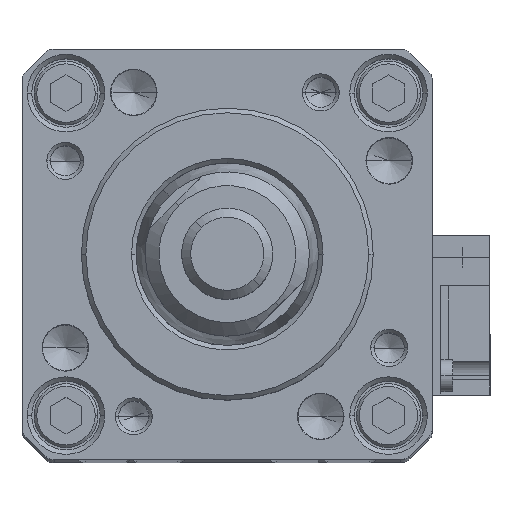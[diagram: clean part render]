
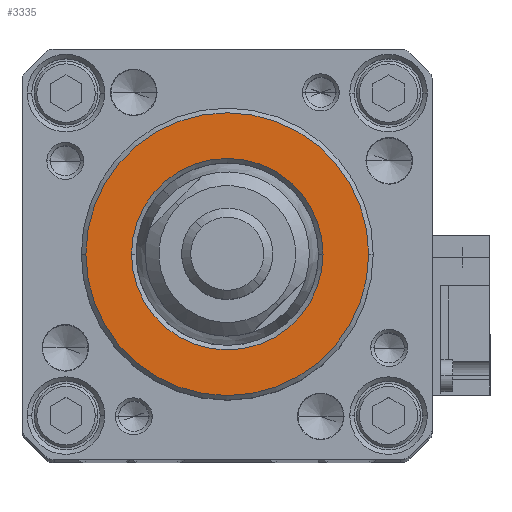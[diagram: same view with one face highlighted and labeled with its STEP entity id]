
A CAD part, top view. The second image highlights one B-rep face of the part: STEP entity #3335.
In plain terms, the highlighted planar face has unit normal (0, 0, 1).
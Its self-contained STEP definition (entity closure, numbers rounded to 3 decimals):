
#1697 = VERTEX_POINT ( 'NONE', #15076 ) ;
#1881 = CARTESIAN_POINT ( 'NONE',  ( 0., 0., 207. ) ) ;
#1991 = EDGE_LOOP ( 'NONE', ( #2922, #18857 ) ) ;
#2922 = ORIENTED_EDGE ( 'NONE', *, *, #18243, .T. ) ;
#2926 = EDGE_CURVE ( 'NONE', #8215, #10530, #25058, .T. ) ;
#2953 = CIRCLE ( 'NONE', #17863, 15.5 ) ;
#3250 = FACE_OUTER_BOUND ( 'NONE', #13958, .T. ) ;
#3335 = ADVANCED_FACE ( 'NONE', ( #24609, #3250 ), #3877, .T. ) ;
#3637 = ORIENTED_EDGE ( 'NONE', *, *, #14746, .T. ) ;
#3877 = PLANE ( 'NONE',  #13556 ) ;
#3954 = DIRECTION ( 'NONE',  ( 1., 0., 0. ) ) ;
#5475 = CARTESIAN_POINT ( 'NONE',  ( 0., 0., 207. ) ) ;
#7538 = DIRECTION ( 'NONE',  ( 1., 0., 0. ) ) ;
#7678 = CARTESIAN_POINT ( 'NONE',  ( 0., 0., 207. ) ) ;
#8033 = DIRECTION ( 'NONE',  ( 0., 0., 1. ) ) ;
#8144 = EDGE_CURVE ( 'NONE', #1697, #8451, #2953, .T. ) ;
#8215 = VERTEX_POINT ( 'NONE', #12016 ) ;
#8451 = VERTEX_POINT ( 'NONE', #25593 ) ;
#9285 = CIRCLE ( 'NONE', #19345, 10.5 ) ;
#9311 = AXIS2_PLACEMENT_3D ( 'NONE', #5475, #19963, #7538 ) ;
#9753 = DIRECTION ( 'NONE',  ( 1., 0., 0. ) ) ;
#10530 = VERTEX_POINT ( 'NONE', #13059 ) ;
#11919 = DIRECTION ( 'NONE',  ( 0., 0., -1. ) ) ;
#12016 = CARTESIAN_POINT ( 'NONE',  ( -10.5, 0., 207. ) ) ;
#12941 = ORIENTED_EDGE ( 'NONE', *, *, #8144, .T. ) ;
#13059 = CARTESIAN_POINT ( 'NONE',  ( 10.5, 0., 207. ) ) ;
#13556 = AXIS2_PLACEMENT_3D ( 'NONE', #14180, #8033, #22511 ) ;
#13958 = EDGE_LOOP ( 'NONE', ( #12941, #3637 ) ) ;
#14180 = CARTESIAN_POINT ( 'NONE',  ( 0., 0., 207. ) ) ;
#14746 = EDGE_CURVE ( 'NONE', #8451, #1697, #26560, .T. ) ;
#15076 = CARTESIAN_POINT ( 'NONE',  ( -15.5, 0., 207. ) ) ;
#16370 = DIRECTION ( 'NONE',  ( 0., 0., -1. ) ) ;
#17863 = AXIS2_PLACEMENT_3D ( 'NONE', #7678, #22165, #9753 ) ;
#18243 = EDGE_CURVE ( 'NONE', #10530, #8215, #9285, .T. ) ;
#18857 = ORIENTED_EDGE ( 'NONE', *, *, #2926, .T. ) ;
#19345 = AXIS2_PLACEMENT_3D ( 'NONE', #1881, #16370, #3954 ) ;
#19963 = DIRECTION ( 'NONE',  ( 0., 0., 1. ) ) ;
#22165 = DIRECTION ( 'NONE',  ( 0., 0., 1. ) ) ;
#22511 = DIRECTION ( 'NONE',  ( 1., 0., 0. ) ) ;
#22920 = AXIS2_PLACEMENT_3D ( 'NONE', #24323, #11919, #26386 ) ;
#24323 = CARTESIAN_POINT ( 'NONE',  ( 0., 0., 207. ) ) ;
#24609 = FACE_BOUND ( 'NONE', #1991, .T. ) ;
#25058 = CIRCLE ( 'NONE', #22920, 10.5 ) ;
#25593 = CARTESIAN_POINT ( 'NONE',  ( 15.5, 0., 207. ) ) ;
#26386 = DIRECTION ( 'NONE',  ( 1., 0., 0. ) ) ;
#26560 = CIRCLE ( 'NONE', #9311, 15.5 ) ;
